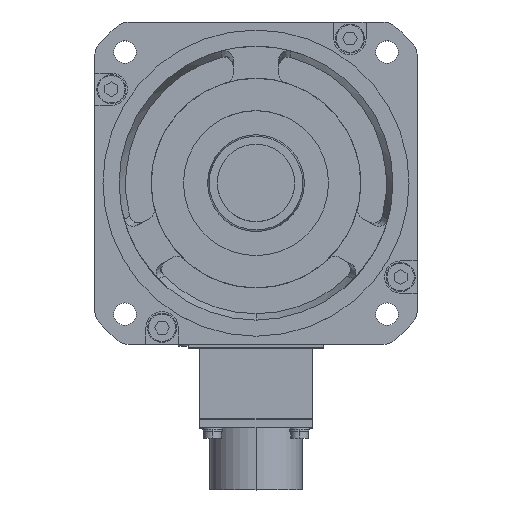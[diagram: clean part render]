
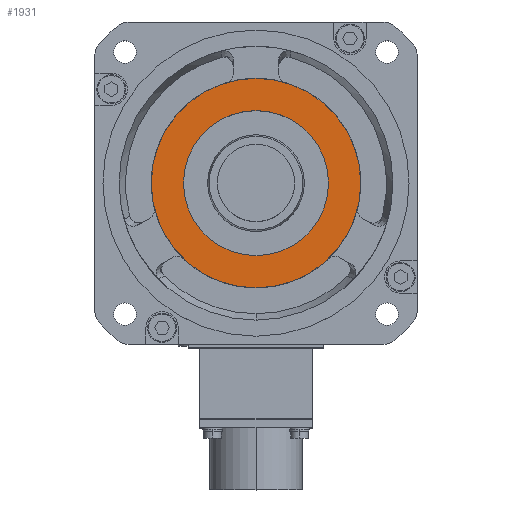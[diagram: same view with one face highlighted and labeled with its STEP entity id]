
A CAD part, top view. The second image highlights one B-rep face of the part: STEP entity #1931.
In plain terms, the highlighted planar face has unit normal (0, 0, 1).
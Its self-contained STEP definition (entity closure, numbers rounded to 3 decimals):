
#1931 = ADVANCED_FACE ( 'NONE', ( #8912, #8911 ), #8910, .T. ) ;
#1932 = EDGE_LOOP ( 'NONE', ( #1933, #1935 ) ) ;
#1933 = ORIENTED_EDGE ( 'NONE', *, *, #1934, .F. ) ;
#1934 = EDGE_CURVE ( 'NONE', #5335, #5332, #8905, .T. ) ;
#1935 = ORIENTED_EDGE ( 'NONE', *, *, #5334, .F. ) ;
#1936 = EDGE_LOOP ( 'NONE', ( #1937, #1938 ) ) ;
#1937 = ORIENTED_EDGE ( 'NONE', *, *, #5906, .F. ) ;
#1938 = ORIENTED_EDGE ( 'NONE', *, *, #5824, .F. ) ;
#5332 = VERTEX_POINT ( 'NONE', #15146 ) ;
#5334 = EDGE_CURVE ( 'NONE', #5332, #5335, #15145, .T. ) ;
#5335 = VERTEX_POINT ( 'NONE', #15140 ) ;
#5824 = EDGE_CURVE ( 'NONE', #5908, #5907, #16110, .T. ) ;
#5906 = EDGE_CURVE ( 'NONE', #5907, #5908, #16311, .T. ) ;
#5907 = VERTEX_POINT ( 'NONE', #16306 ) ;
#5908 = VERTEX_POINT ( 'NONE', #16305 ) ;
#8901 = DIRECTION ( 'NONE',  ( 1., 0., 0. ) ) ;
#8902 = DIRECTION ( 'NONE',  ( 0., 0., 1. ) ) ;
#8903 = CARTESIAN_POINT ( 'NONE',  ( 0., 0., 3.5 ) ) ;
#8904 = AXIS2_PLACEMENT_3D ( 'NONE', #8903, #8902, #8901 ) ;
#8905 = CIRCLE ( 'NONE', #8904, 22.5 ) ;
#8906 = DIRECTION ( 'NONE',  ( 1., 0., 0. ) ) ;
#8907 = DIRECTION ( 'NONE',  ( 0., 0., 1. ) ) ;
#8908 = CARTESIAN_POINT ( 'NONE',  ( 0., 0., 3.5 ) ) ;
#8909 = AXIS2_PLACEMENT_3D ( 'NONE', #8908, #8907, #8906 ) ;
#8910 = PLANE ( 'NONE',  #8909 ) ;
#8911 = FACE_OUTER_BOUND ( 'NONE', #1936, .T. ) ;
#8912 = FACE_BOUND ( 'NONE', #1932, .T. ) ;
#15140 = CARTESIAN_POINT ( 'NONE',  ( 22.5, 0., 3.5 ) ) ;
#15141 = DIRECTION ( 'NONE',  ( 1., 0., 0. ) ) ;
#15142 = DIRECTION ( 'NONE',  ( 0., 0., 1. ) ) ;
#15143 = CARTESIAN_POINT ( 'NONE',  ( 0., 0., 3.5 ) ) ;
#15144 = AXIS2_PLACEMENT_3D ( 'NONE', #15143, #15142, #15141 ) ;
#15145 = CIRCLE ( 'NONE', #15144, 22.5 ) ;
#15146 = CARTESIAN_POINT ( 'NONE',  ( -22.5, 0., 3.5 ) ) ;
#16107 = DIRECTION ( 'NONE',  ( 0., 1., 0. ) ) ;
#16108 = DIRECTION ( 'NONE',  ( 0., 0., -1. ) ) ;
#16109 = AXIS2_PLACEMENT_3D ( 'NONE', #16115, #16108, #16107 ) ;
#16110 = CIRCLE ( 'NONE', #16109, 32.5 ) ;
#16115 = CARTESIAN_POINT ( 'NONE',  ( 0., 0., 3.5 ) ) ;
#16305 = CARTESIAN_POINT ( 'NONE',  ( 0., -32.5, 3.5 ) ) ;
#16306 = CARTESIAN_POINT ( 'NONE',  ( 0., 32.5, 3.5 ) ) ;
#16307 = DIRECTION ( 'NONE',  ( 0., 1., 0. ) ) ;
#16308 = DIRECTION ( 'NONE',  ( 0., 0., -1. ) ) ;
#16309 = CARTESIAN_POINT ( 'NONE',  ( 0., 0., 3.5 ) ) ;
#16310 = AXIS2_PLACEMENT_3D ( 'NONE', #16309, #16308, #16307 ) ;
#16311 = CIRCLE ( 'NONE', #16310, 32.5 ) ;
